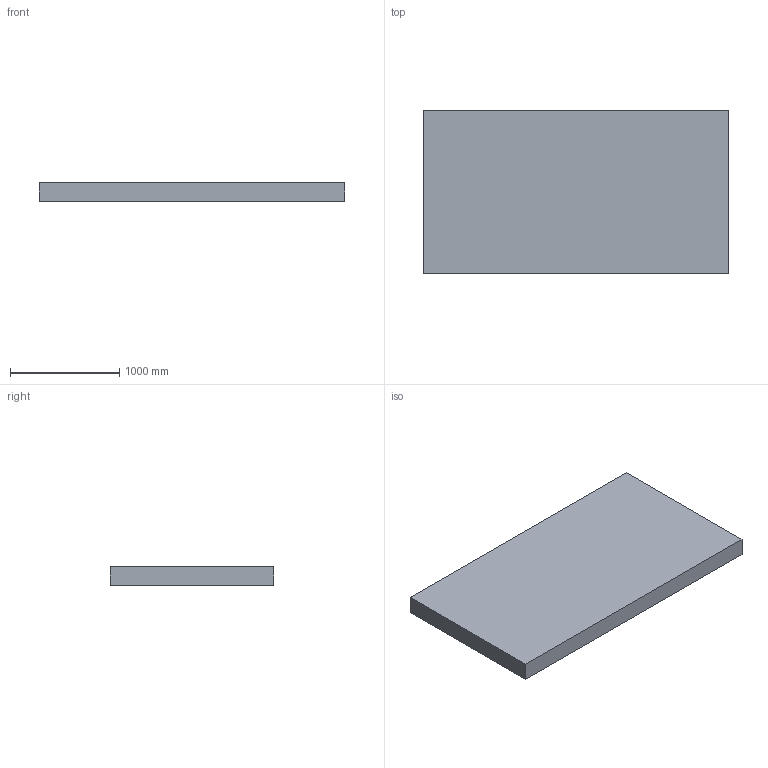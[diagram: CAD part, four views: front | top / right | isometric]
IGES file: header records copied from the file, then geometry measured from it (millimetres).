
Start section: Data from Parasolid IGES Translator 22.0.50, Copyright(c) 2006 Siemens P LM Software. All Rights Reserved.
Global section: file name: noorth-bathtub-platforms_6465-6466.igs; native system: By Siemens PLM Incorporated; preprocessor: XPlus GENERIC/IGES 22.0.50; author: Noname; organization: Noname; date: 20250706.164534; units: metre
Bounding box: 2800 x 1500 x 170 mm (x, y, z)
Volume: 714000000 mm3; surface area: 9862000 mm2
Topology: 1 solids, 1 shells, 6 faces, 12 edges, 8 vertices
Faces by surface type: plane 6
